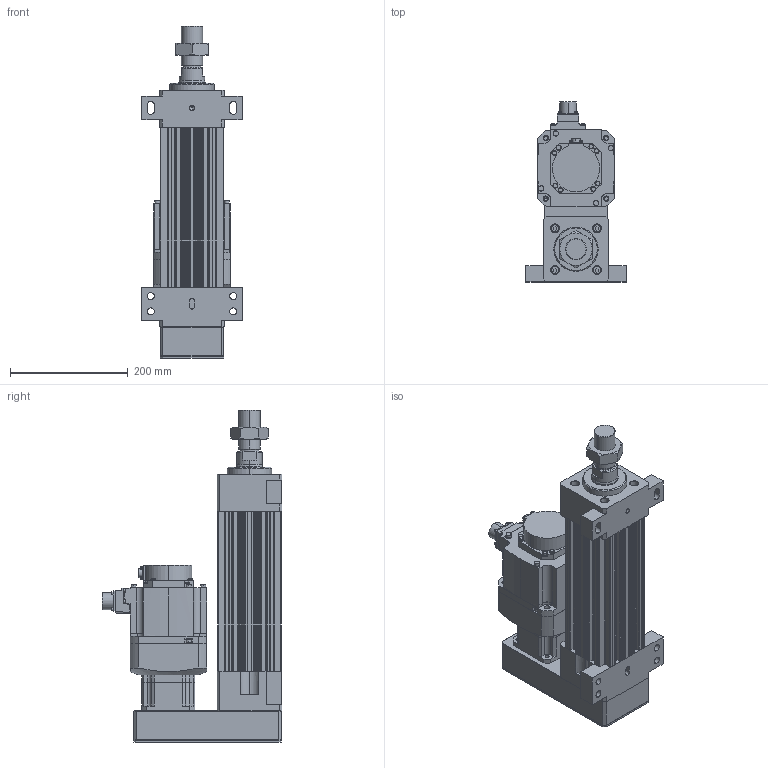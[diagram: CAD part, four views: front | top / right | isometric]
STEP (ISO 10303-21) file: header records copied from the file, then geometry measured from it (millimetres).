
FILE_DESCRIPTION (( 'STEP AP203' ), '1' );
FILE_NAME ('HES110NS(HS)-P100-W010G00-M-FFB.STEP', '2023-01-26T08:46:09', ( 'tms' ), ( '' ), 'SwSTEP 2.0', 'SolidWorks 2013', '' );
FILE_SCHEMA (( 'CONFIG_CONTROL_DESIGN' ));
Length unit declared in the file: millimetre
Products named in the file (8): M36X1.5P; P0401301004; HES110-P100-G090-FFB; AB090-003[HG-SR102B]; HES110 ROD M ST100; AB0901; HES110NS(HS)-P100-W010G00-M-FFB; HG-SR102
Assembly tree (7 placements, depth 3):
  HES110NS(HS)-P100-W010G00-M-FFB
    HES110-P100-G090-FFB
    AB090-003[HG-SR102B]
      AB0901
      P0401301004
    HG-SR102
    HES110 ROD M ST100
    M36X1.5P
Bounding box: 170 x 304.99 x 563 mm (x, y, z)
Volume: 6237167.9 mm3; surface area: 731189.3 mm2
Topology: 4 solids, 11 shells, 1083 faces, 2775 edges, 1806 vertices
Faces by surface type: cylinder 501, plane 500, cone 70, bspline 8, torus 4
Entity records: 34904 total; most frequent: CARTESIAN_POINT 6854, DIRECTION 5982, ORIENTED_EDGE 5502, EDGE_CURVE 2761, AXIS2_PLACEMENT_3D 2205, VERTEX_POINT 1806, VECTOR 1572, LINE 1572
